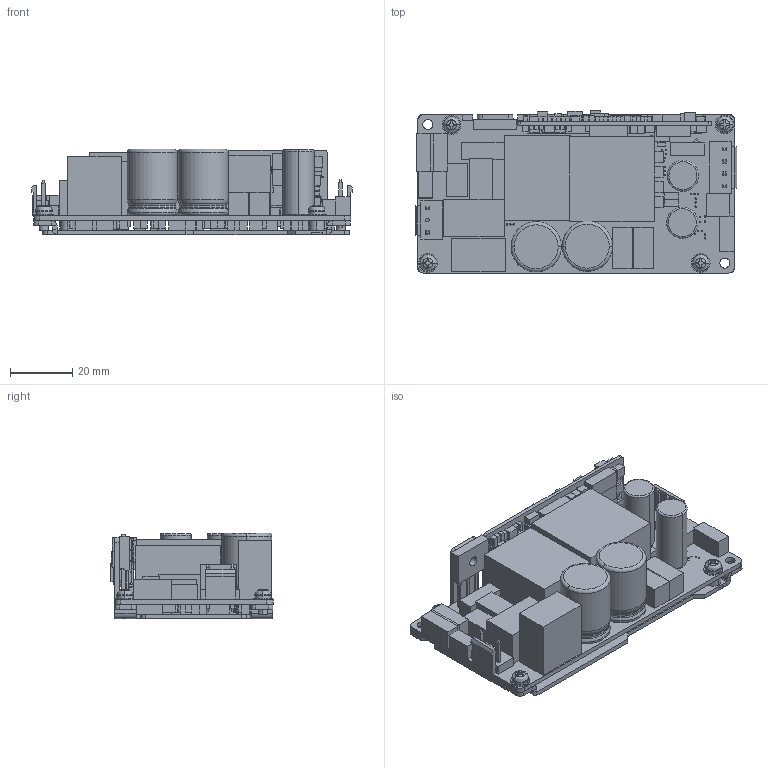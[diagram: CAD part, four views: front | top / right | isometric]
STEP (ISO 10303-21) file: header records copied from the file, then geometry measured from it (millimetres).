
FILE_DESCRIPTION(('FreeCAD Model'),'2;1');
FILE_NAME('X:/Application Engineering/4 Documentation/3 Users/1 MaS/3D Projekt/RAC150-G_OF_3D_20190724.step','2019-07-24T10:22:34',('Author'),( ''),'Open CASCADE STEP processor 7.3','FreeCAD','Unknown');
FILE_SCHEMA(('AUTOMOTIVE_DESIGN { 1 0 10303 214 1 1 1 1 }'));
Length unit declared in the file: millimetre
Products named in the file (236): RAC150-G_OF_ASM126; RAC150-G_OF_ASM165; RAC150-G_OF_ASM159; RAC150-G_OF_ASM062; RAC150-G_OF_ASM169; RAC150-G_OF_ASM071; RAC150-G_OF_ASM205; RAC150-G_OF_ASM080; RAC150-G_OF_ASM078; RAC150-G_OF_ASM150; RAC150-G_OF_ASM158; RAC150-G_OF_ASM166; RAC150-G_OF_ASM167; RAC150-G_OF_ASM161; RAC150-G_OF_ASM077; RAC150-G_OF_ASM200; RAC150-G_OF_ASM076; RAC150-G_OF_ASM162; RAC150-G_OF_ASM074; RAC150-G_OF_ASM201; RAC150-G_OF_ASM072; RAC150-G_OF_ASM146; RAC150-G_OF_ASM151; RAC150-G_OF_ASM204; RAC150-G_OF_ASM156; RAC150-G_OF_ASM152; RAC150-G_OF_ASM157; RAC150-G_OF_ASM153; RAC150-G_OF_ASM163; RAC150-G_OF_ASM164; RAC150-G_OF_ASM065; RAC150-G_OF_ASM060; RAC150-G_OF_ASM059; RAC150-G_OF_ASM058; RAC150-G_OF_ASM202; RAC150-G_OF_ASM057; RAC150-G_OF_ASM068; RAC150-G_OF_ASM061; RAC150-G_OF_ASM032; RAC150-G_OF_ASM155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
Bounding box: 103.12 x 52 x 27.4 mm (x, y, z)
Volume: 79442.6 mm3; surface area: 60686.1 mm2
Topology: 232 solids, 236 shells, 2273 faces, 5195 edges, 3410 vertices
Faces by surface type: plane 1713, cylinder 510, torus 32, bspline 8, sphere 8, cone 2
Entity records: 69813 total; most frequent: CARTESIAN_POINT 11375, DIRECTION 10879, ORIENTED_EDGE 10374, EDGE_CURVE 5195, LINE 4011, VECTOR 4011, AXIS2_PLACEMENT_3D 3434, VERTEX_POINT 3410
